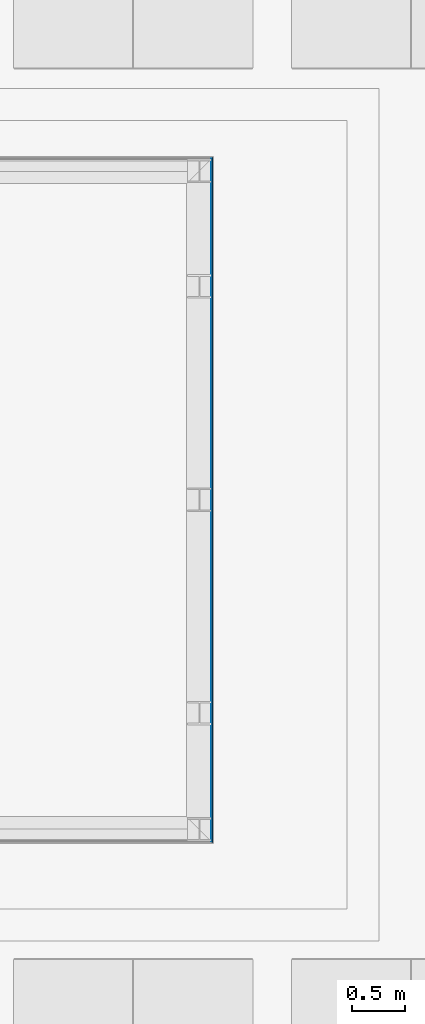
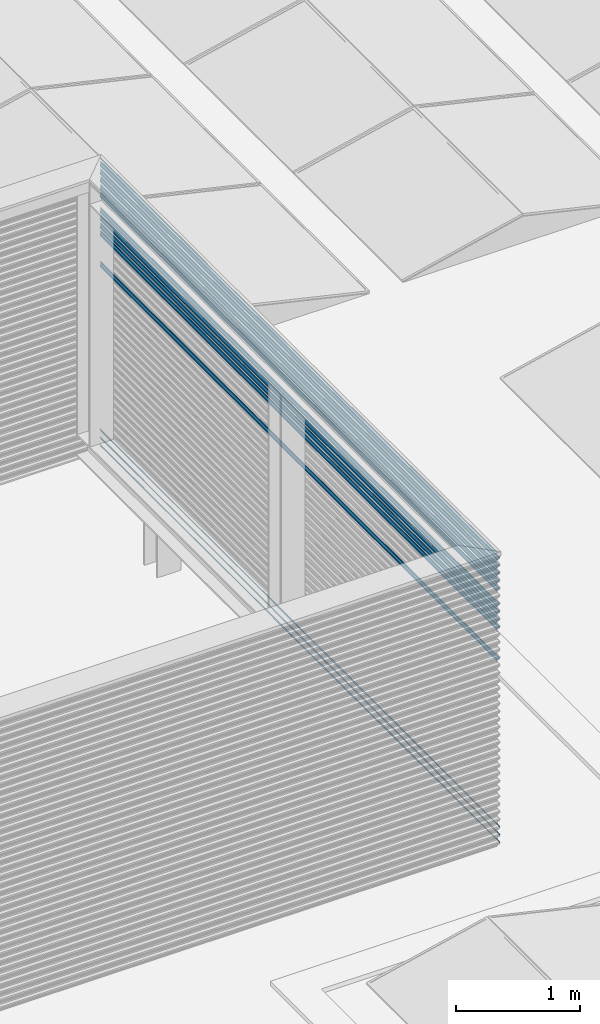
# One storey, part 39 of 63: 14 building element parts, 1 element without a shape of its own.
"""IFC2X3 building model written with IfcOpenShell, lengths in millimetres."""

from ifc_helpers import new_model, entity, si_unit, converted_unit, derived_unit, money_unit, direction, frame, origin_with_axes, place, context, subcontext, project, spatial, faceted_brep, material, type_object, element, aggregate, save


model = new_model("IFC2X3")

# Units and contexts
model_context = context("Model", 3, precision=0.01, world=origin_with_axes(), true_north=direction((0.0, 1.0)))
body_context = subcontext(model_context, "Body", "Model", "MODEL_VIEW")
ifc_project = project(units=[si_unit("LENGTHUNIT", "METRE", prefix="MILLI"), si_unit("AREAUNIT", "SQUARE_METRE"), si_unit("VOLUMEUNIT", "CUBIC_METRE"), converted_unit("PLANEANGLEUNIT", "DEGREE", entity("IfcPlaneAngleMeasure", 0.0174532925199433), si_unit("PLANEANGLEUNIT", "RADIAN"), dimensions=[0, 0, 0, 0, 0, 0, 0]), money_unit("EUR"), converted_unit("TIMEUNIT", "Year", entity("IfcTimeMeasure", 31557600.0), si_unit("TIMEUNIT", "SECOND"), dimensions=[0, 0, 1, 0, 0, 0, 0]), si_unit("MASSUNIT", "GRAM", prefix="KILO"), si_unit("THERMODYNAMICTEMPERATUREUNIT", "DEGREE_CELSIUS"), si_unit("LUMINOUSINTENSITYUNIT", "LUMEN"), si_unit("ENERGYUNIT", "JOULE", prefix="MEGA"), derived_unit("THERMALCONDUCTANCEUNIT", [(si_unit("POWERUNIT", "WATT"), 1), (si_unit("LENGTHUNIT", "METRE"), -1), (si_unit("THERMODYNAMICTEMPERATUREUNIT", "KELVIN"), -1)]), derived_unit("SPECIFICHEATCAPACITYUNIT", [(si_unit("ENERGYUNIT", "JOULE"), 1), (si_unit("MASSUNIT", "GRAM", prefix="KILO"), -1), (si_unit("THERMODYNAMICTEMPERATUREUNIT", "KELVIN"), -1)]), derived_unit("MASSDENSITYUNIT", [(si_unit("MASSUNIT", "GRAM", prefix="KILO"), 1), (si_unit("VOLUMEUNIT", "CUBIC_METRE"), -1)])], contexts=[model_context])

# Site, building, storey
site_placement = place(None, origin_with_axes())
site = spatial("IfcSite", under=ifc_project, at=site_placement, Name="<site naam>", CompositionType="ELEMENT")
building_placement = place(site_placement, origin_with_axes())
building = spatial("IfcBuilding", under=site, at=building_placement, Name="<Naam gebouw>", CompositionType="ELEMENT")
storey_placement = place(building_placement, frame((0.0, 0.0, 12770.0), z_axis=(0.0, 0.0, 1.0), x_axis=(1.0, 0.0, 0.0)))
storey = spatial("IfcBuildingStorey", under=building, at=storey_placement, Name="04 4e verdieping", CompositionType="ELEMENT", Elevation=12770.0)

# Wall, building element parts
wall_type = type_object("IfcWallType", Name="Gevelbeplating golf 18 x 2900", PredefinedType="NOTDEFINED")
wall_placement = place(storey_placement, frame((58128.00007858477, 6781.999921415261, 299.9552842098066), z_axis=(0.0, 0.0, 1.0), x_axis=(0.0, 1.0, 0.0)))
wall = element("IfcWall", 1, at=wall_placement, inside=storey, type_object=wall_type, Name="47_Binnenwand_Gevelbeplating")
ifc_material = material(Name="gevelafwerking type 3 - Aluminium RAL1036")
building_element_part_1_placement = place(wall_placement, origin_with_axes())
building_element_part_1 = element("IfcBuildingElementPart", 2, at=building_element_part_1_placement, material=ifc_material, Name="gevelafwerking type 3 - Aluminium RAL1036", context=body_context, shape_type="Brep", body=[
    faceted_brep([(0.9999476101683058, 0.9999476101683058, 1862.0), (0.9999476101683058, -5.238983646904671e-05, 1862.0), (6436.000223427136, -5.238983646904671e-05, 1862.000008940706), (6436.000223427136, 0.9999476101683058, 1862.000008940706), (3.116426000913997, 2.188175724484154, 1851.887674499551), (3.116426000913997, 3.116426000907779, 1851.887674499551), (3.340077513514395, 2.257306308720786, 1851.568205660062), (6433.742884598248, 2.257306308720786, 1851.568205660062), (6433.742884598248, 3.340077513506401, 1851.568205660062), (6433.812014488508, 3.116426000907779, 1851.887674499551), (9.04153128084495, 9.041531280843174, 1843.424121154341), (9.04153128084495, 8.209492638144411, 1843.424121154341), (9.398076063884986, 8.55520022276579, 1842.951106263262), (6427.445005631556, 8.55520022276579, 1842.951106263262), (6427.445005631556, 9.398076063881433, 1842.951106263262), (6427.790712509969, 9.041531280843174, 1843.424121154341), (15.62921048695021, 15.62921048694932, 1834.684488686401), (15.62921048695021, 14.54417666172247, 1834.684488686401), (15.69994912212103, 14.77514470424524, 1834.365682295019), (6421.225040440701, 14.77514470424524, 1834.365682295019), (6421.225040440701, 15.6999491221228, 1834.365682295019), (6421.45600919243, 15.62921048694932, 1834.684488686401), (17.99994761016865, 17.99994761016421, 1824.0), (17.99994761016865, 16.99994522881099, 1824.0), (6419.000241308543, 16.99994522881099, 1823.999995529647), (6419.000241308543, 17.99994761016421, 1823.999995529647)], [[[0, 1, 2, 3]], [[4, 1, 0, 5]], [[4, 6, 7, 2, 1]], [[3, 2, 7, 8, 9]], [[5, 0, 3, 9]], [[6, 4, 5, 10, 11]], [[11, 12, 13, 7, 6]], [[8, 7, 13, 14, 15]], [[10, 5, 9, 8, 15]], [[12, 11, 10, 16, 17]], [[17, 18, 19, 13, 12]], [[14, 13, 19, 20, 21]], [[16, 10, 15, 14, 21]], [[18, 17, 16, 22, 23]], [[18, 23, 24, 19]], [[20, 19, 24, 25]], [[22, 16, 21, 20, 25]], [[23, 22, 25, 24]]]),
])
building_element_part_2_placement = place(wall_placement, origin_with_axes())
building_element_part_2 = element("IfcBuildingElementPart", 3, at=building_element_part_2_placement, material=ifc_material, Name="gevelafwerking type 3 - Aluminium RAL1036", context=body_context, shape_type="Brep", body=[
    faceted_brep([(0.9999380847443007, 0.9999380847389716, 2241.999999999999), (0.9999380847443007, -6.19152586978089e-05, 2241.999999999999), (6436.000261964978, -6.19152586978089e-05, 2242.000013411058), (6436.000261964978, 0.9999380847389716, 2242.000013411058), (3.116416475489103, 2.188167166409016, 2231.887674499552), (3.116416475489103, 3.116416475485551, 2231.887674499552), (3.340064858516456, 2.257296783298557, 2231.568210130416), (6433.742879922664, 2.257296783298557, 2231.568210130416), (6433.742879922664, 3.340064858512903, 2231.568210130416), (6433.812001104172, 3.116416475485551, 2231.887674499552), (9.041521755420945, 8.209486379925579, 2223.424121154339), (9.041521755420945, 9.041521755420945, 2223.424121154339), (9.398063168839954, 8.555190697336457, 2222.951110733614), (6427.445005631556, 8.555190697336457, 2222.951110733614), (6427.79070456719, 9.041521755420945, 2223.424121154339), (6427.445005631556, 9.398063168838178, 2222.951110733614), (15.6292009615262, 15.62920096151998, 2214.6844886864), (15.6292009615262, 14.54417037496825, 2214.6844886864), (15.69993860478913, 14.77513517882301, 2214.365686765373), (6421.225040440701, 14.77513517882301, 2214.365686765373), (6421.456005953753, 15.62920096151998, 2214.6844886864), (6421.225040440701, 15.69993860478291, 2214.365686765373), (17.99993808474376, 17.99993808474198, 2203.999999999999), (17.99993808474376, 16.99993570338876, 2203.999999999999), (6419.000241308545, 16.99993570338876, 2203.999999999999), (6419.000241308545, 17.99993808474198, 2203.999999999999)], [[[0, 1, 2, 3]], [[4, 1, 0, 5]], [[4, 6, 7, 2, 1]], [[8, 9, 3, 2, 7]], [[5, 0, 3, 9]], [[10, 6, 4, 5, 11]], [[10, 12, 13, 7, 6]], [[11, 5, 9, 8, 14]], [[15, 14, 8, 7, 13]], [[12, 10, 11, 16, 17]], [[17, 18, 19, 13, 12]], [[16, 11, 14, 15, 20]], [[21, 20, 15, 13, 19]], [[18, 17, 16, 22, 23]], [[18, 23, 24, 19]], [[22, 16, 20, 21, 25]], [[24, 25, 21, 19]], [[23, 22, 25, 24]]]),
])
building_element_part_3_placement = place(wall_placement, origin_with_axes())
building_element_part_3 = element("IfcBuildingElementPart", 4, at=building_element_part_3_placement, material=ifc_material, Name="gevelafwerking type 3 - Aluminium RAL1036", context=body_context, shape_type="Brep", body=[
    faceted_brep([(0.9999333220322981, 0.9999333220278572, 2394.0), (0.9999333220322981, -6.667796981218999e-05, 2394.0), (6436.000266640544, -6.667796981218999e-05, 2393.999980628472), (6436.000266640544, 0.9999333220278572, 2393.999980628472), (3.116411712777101, 2.188164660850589, 2383.887674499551), (3.116411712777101, 3.116411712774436, 2383.887674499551), (3.340052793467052, 2.257292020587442, 2383.568220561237), (6433.742884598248, 2.257292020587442, 2383.568220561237), (6433.742884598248, 3.340052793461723, 2383.568220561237), (6433.81201287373, 3.116411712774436, 2383.887674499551), (9.041516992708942, 9.04151699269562, 2375.42412115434), (9.041516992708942, 8.20948924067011, 2375.42412115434), (9.398050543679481, 8.555185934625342, 2374.951121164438), (6427.445005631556, 8.555185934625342, 2374.951121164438), (6427.445005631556, 9.398050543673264, 2374.951121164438), (6427.79070161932, 9.041516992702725, 2375.42412115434), (15.62919619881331, 15.62919619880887, 2366.684488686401), (15.62919619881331, 14.54417316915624, 2366.684488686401), (15.69993152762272, 14.77513041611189, 2366.365697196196), (6421.225040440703, 14.77513041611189, 2366.365697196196), (6421.225040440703, 15.69993152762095, 2366.365697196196), (6421.455998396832, 15.62919619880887, 2366.684488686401), (17.99993332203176, 17.99993332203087, 2356.0), (17.99993332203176, 16.99993094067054, 2356.0), (6419.000241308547, 16.99993094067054, 2356.000010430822), (6419.000241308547, 17.99993332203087, 2356.000010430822)], [[[0, 1, 2, 3]], [[4, 1, 0, 5]], [[4, 6, 7, 2, 1]], [[3, 2, 7, 8, 9]], [[5, 0, 3, 9]], [[6, 4, 5, 10, 11]], [[11, 12, 13, 7, 6]], [[8, 7, 13, 14, 15]], [[10, 5, 9, 8, 15]], [[12, 11, 10, 16, 17]], [[17, 18, 19, 13, 12]], [[14, 13, 19, 20, 21]], [[16, 10, 15, 14, 21]], [[18, 17, 16, 22, 23]], [[18, 23, 24, 19]], [[20, 19, 24, 25]], [[22, 16, 21, 20, 25]], [[23, 22, 25, 24]]]),
])
building_element_part_4_placement = place(wall_placement, origin_with_axes())
building_element_part_4 = element("IfcBuildingElementPart", 5, at=building_element_part_4_placement, material=ifc_material, Name="gevelafwerking type 3 - Aluminium RAL1036", context=body_context, shape_type="Brep", body=[
    faceted_brep([(0.9999357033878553, 0.999935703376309, 2318.0), (0.9999357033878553, -6.429661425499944e-05, 2318.0), (6436.000266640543, -6.429661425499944e-05, 2317.999997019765), (6436.000266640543, 0.9999357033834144, 2317.999997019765), (3.116414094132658, 2.188161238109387, 2307.887674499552), (3.116414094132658, 3.116414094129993, 2307.887674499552), (3.340073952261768, 2.257294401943, 2307.568193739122), (6433.742879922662, 2.257294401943, 2307.568193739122), (6433.742879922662, 3.340073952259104, 2307.568193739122), (6433.812009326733, 3.116414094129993, 2307.887674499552), (9.0415193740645, 8.209472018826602, 2299.42412115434), (9.0415193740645, 9.041519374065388, 2299.42412115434), (9.398073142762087, 8.5551883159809, 2298.951094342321), (6427.445005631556, 8.5551883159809, 2298.951094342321), (6427.790716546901, 9.041519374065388, 2299.42412115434), (6427.445005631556, 9.398073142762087, 2298.951094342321), (15.62919858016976, 15.62919858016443, 2290.684488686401), (15.62919858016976, 14.54415611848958, 2290.684488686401), (15.69993986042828, 14.77513279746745, 2290.365670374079), (6421.225040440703, 14.77513279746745, 2290.365670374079), (6421.456017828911, 15.62919858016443, 2290.684488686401), (6421.225040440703, 15.69993986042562, 2290.365670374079), (17.9999357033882, 17.99993570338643, 2280.0), (17.9999357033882, 16.9999333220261, 2280.0), (6419.000241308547, 16.9999333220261, 2279.999983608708), (6419.000241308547, 17.99993570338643, 2279.999983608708)], [[[0, 1, 2, 3]], [[4, 1, 0, 5]], [[4, 6, 7, 2, 1]], [[8, 9, 3, 2, 7]], [[5, 0, 3, 9]], [[10, 6, 4, 5, 11]], [[10, 12, 13, 7, 6]], [[11, 5, 9, 8, 14]], [[15, 14, 8, 7, 13]], [[12, 10, 11, 16, 17]], [[17, 18, 19, 13, 12]], [[16, 11, 14, 15, 20]], [[21, 20, 15, 13, 19]], [[18, 17, 16, 22, 23]], [[18, 23, 24, 19]], [[22, 16, 20, 21, 25]], [[24, 25, 21, 19]], [[23, 22, 25, 24]]]),
])
building_element_part_5_placement = place(wall_placement, origin_with_axes())
building_element_part_5 = element("IfcBuildingElementPart", 6, at=building_element_part_5_placement, material=ifc_material, Name="gevelafwerking type 3 - Aluminium RAL1036", context=body_context, shape_type="Brep", body=[
    faceted_brep([(0.9999285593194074, 0.9999285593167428, 2546.0), (0.9999285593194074, -7.144068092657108e-05, 2546.0), (6436.000266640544, -7.144068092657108e-05, 2545.999991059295), (6436.000266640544, 0.9999285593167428, 2545.999991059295), (3.116406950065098, 2.188162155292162, 2535.88767449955), (3.116406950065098, 3.116406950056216, 2535.88767449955), (3.340040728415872, 2.257287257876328, 2535.568230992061), (6433.742884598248, 2.257287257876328, 2535.568230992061), (6433.742884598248, 3.340040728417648, 2535.568230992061), (6433.812010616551, 3.116406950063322, 2535.88767449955), (9.041512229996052, 8.209460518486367, 2527.42412115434), (9.041512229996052, 9.04151222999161, 2527.42412115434), (9.398070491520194, 8.555181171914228, 2526.951088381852), (6427.445005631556, 8.555181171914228, 2526.951088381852), (6427.790723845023, 9.04151222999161, 2527.42412115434), (6427.445005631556, 9.398070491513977, 2526.951088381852), (15.62919143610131, 15.62919143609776, 2518.6844886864), (15.62919143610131, 14.54414465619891, 2518.6844886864), (15.69993403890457, 14.77512565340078, 2518.365664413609), (6421.225079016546, 14.77512565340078, 2518.365664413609), (6421.456063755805, 15.62919143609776, 2518.6844886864), (6421.225079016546, 15.69993403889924, 2518.365664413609), (17.99992855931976, 17.99992855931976, 2507.999999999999), (17.99992855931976, 16.99992617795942, 2507.999999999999), (6419.000241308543, 16.99992617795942, 2508.000020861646), (6419.000241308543, 17.99992855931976, 2508.000020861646)], [[[0, 1, 2, 3]], [[4, 1, 0, 5]], [[4, 6, 7, 2, 1]], [[8, 9, 3, 2, 7]], [[5, 0, 3, 9]], [[10, 6, 4, 5, 11]], [[10, 12, 13, 7, 6]], [[11, 5, 9, 8, 14]], [[15, 14, 8, 7, 13]], [[12, 10, 11, 16, 17]], [[17, 18, 19, 13, 12]], [[16, 11, 14, 15, 20]], [[21, 20, 15, 13, 19]], [[18, 17, 16, 22, 23]], [[18, 23, 24, 19]], [[22, 16, 20, 21, 25]], [[24, 25, 21, 19]], [[23, 22, 25, 24]]]),
])
building_element_part_6_placement = place(wall_placement, origin_with_axes())
building_element_part_6 = element("IfcBuildingElementPart", 7, at=building_element_part_6_placement, material=ifc_material, Name="gevelafwerking type 3 - Aluminium RAL1036", context=body_context, shape_type="Brep", body=[
    faceted_brep([(0.9999261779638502, 0.9999261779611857, 2622.0), (0.9999261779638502, -7.382203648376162e-05, 2622.0), (6436.000261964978, -7.382203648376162e-05, 2622.00001788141), (6436.000261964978, 0.9999261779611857, 2622.00001788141), (3.116404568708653, 2.188156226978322, 2611.887674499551), (3.116404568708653, 3.116404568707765, 2611.887674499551), (3.34004982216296, 2.257284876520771, 2611.568214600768), (6433.742879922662, 2.257284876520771, 2611.568214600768), (6433.742879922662, 3.340049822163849, 2611.568214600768), (6433.81200013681, 3.116404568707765, 2611.887674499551), (9.041509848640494, 8.209477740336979, 2603.424121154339), (9.041509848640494, 9.041509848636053, 2603.424121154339), (9.398047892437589, 8.55517879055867, 2602.951115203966), (6427.445005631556, 8.55517879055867, 2602.951115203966), (6427.790701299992, 9.041509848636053, 2603.424121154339), (6427.445005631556, 9.39804789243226, 2602.951115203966), (15.62918905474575, 15.6291890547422, 2594.684488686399), (15.62918905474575, 14.54416170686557, 2594.684488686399), (15.69992570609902, 14.77512327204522, 2594.365691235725), (6421.225083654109, 14.77512327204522, 2594.365691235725), (6421.456044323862, 15.6291890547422, 2594.684488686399), (6421.225083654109, 15.69992570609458, 2594.365691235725), (17.99992617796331, 17.9999261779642, 2584.0), (17.99992617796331, 16.99992379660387, 2584.0), (6419.000284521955, 16.99992379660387, 2584.000004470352), (6419.000284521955, 17.9999261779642, 2584.000004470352)], [[[0, 1, 2, 3]], [[4, 1, 0, 5]], [[4, 6, 7, 2, 1]], [[8, 9, 3, 2, 7]], [[5, 0, 3, 9]], [[10, 6, 4, 5, 11]], [[10, 12, 13, 7, 6]], [[11, 5, 9, 8, 14]], [[15, 14, 8, 7, 13]], [[12, 10, 11, 16, 17]], [[17, 18, 19, 13, 12]], [[16, 11, 14, 15, 20]], [[21, 20, 15, 13, 19]], [[18, 17, 16, 22, 23]], [[18, 23, 24, 19]], [[22, 16, 20, 21, 25]], [[24, 25, 21, 19]], [[23, 22, 25, 24]]]),
])
building_element_part_7_placement = place(wall_placement, origin_with_axes())
building_element_part_7 = element("IfcBuildingElementPart", 8, at=building_element_part_7_placement, material=ifc_material, Name="gevelafwerking type 3 - Aluminium RAL1036", context=body_context, shape_type="Brep", body=[
    faceted_brep([(0.9999404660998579, 0.9999404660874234, 2165.999999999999), (0.9999404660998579, -5.953390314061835e-05, 2165.999999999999), (6436.000266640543, -5.953390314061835e-05, 2165.999986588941), (6436.000266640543, 0.9999404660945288, 2165.999986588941), (3.116418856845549, 2.188173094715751, 2155.887674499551), (3.116418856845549, 3.116418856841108, 2155.887674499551), (3.340055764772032, 2.257299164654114, 2155.568226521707), (6433.742884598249, 2.257299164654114, 2155.568226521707), (6433.742884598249, 3.340055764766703, 2155.568226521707), (6433.812011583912, 3.116418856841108, 2155.887674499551), (9.04152413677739, 9.041524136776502, 2147.424121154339), (9.04152413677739, 8.20950074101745, 2147.424121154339), (9.39805319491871, 8.555193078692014, 2146.951127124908), (6427.445005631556, 8.555193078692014, 2146.951127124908), (6427.445005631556, 9.398053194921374, 2146.951127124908), (6427.790697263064, 9.041524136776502, 2147.424121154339), (15.62920334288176, 15.62920334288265, 2138.684488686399), (15.62920334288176, 14.54418463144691, 2138.684488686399), (15.69993734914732, 14.77513756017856, 2138.365703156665), (6421.225040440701, 14.77513756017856, 2138.365703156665), (6421.225040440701, 15.69993734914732, 2138.365703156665), (6421.455994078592, 15.62920334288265, 2138.684488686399), (17.99994046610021, 17.99994046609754, 2127.999999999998), (17.99994046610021, 16.99993808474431, 2127.999999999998), (6419.000241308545, 16.99993808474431, 2128.000016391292), (6419.000241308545, 17.99994046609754, 2128.000016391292)], [[[0, 1, 2, 3]], [[4, 1, 0, 5]], [[4, 6, 7, 2, 1]], [[3, 2, 7, 8, 9]], [[5, 0, 3, 9]], [[6, 4, 5, 10, 11]], [[11, 12, 13, 7, 6]], [[8, 7, 13, 14, 15]], [[10, 5, 9, 8, 15]], [[12, 11, 10, 16, 17]], [[17, 18, 19, 13, 12]], [[14, 13, 19, 20, 21]], [[16, 10, 15, 14, 21]], [[18, 17, 16, 22, 23]], [[18, 23, 24, 19]], [[20, 19, 24, 25]], [[22, 16, 21, 20, 25]], [[23, 22, 25, 24]]]),
])
building_element_part_8_placement = place(wall_placement, origin_with_axes())
building_element_part_8 = element("IfcBuildingElementPart", 9, at=building_element_part_8_placement, material=ifc_material, Name="gevelafwerking type 3 - Aluminium RAL1036", context=body_context, shape_type="Brep", body=[
    faceted_brep([(0.9999237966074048, 0.9999237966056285, 2773.999999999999), (0.9999237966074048, -7.620339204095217e-05, 2773.999999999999), (6436.000266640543, -7.620339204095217e-05, 2773.999985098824), (6436.000266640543, 0.9999237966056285, 2773.999985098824), (3.116402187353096, 2.188156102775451, 2763.887674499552), (3.116402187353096, 3.116402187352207, 2763.887674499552), (3.340040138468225, 2.257282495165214, 2763.568225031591), (6433.742884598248, 2.257282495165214, 2763.568225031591), (6433.742884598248, 3.340040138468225, 2763.568225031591), (6433.812011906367, 3.116402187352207, 2763.887674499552), (9.041507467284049, 9.041507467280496, 2755.424121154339), (9.041507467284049, 8.209482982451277, 2755.424121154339), (9.398037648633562, 8.555176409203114, 2754.95112563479), (6427.445005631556, 8.555176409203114, 2754.95112563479), (6427.445005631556, 9.398037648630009, 2754.95112563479), (6427.790698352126, 9.041507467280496, 2755.424121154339), (15.62918667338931, 15.62918667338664, 2746.6844886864), (15.62918667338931, 14.54416688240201, 2746.6844886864), (15.69992101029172, 14.77512089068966, 2746.365701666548), (6421.225083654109, 14.77512089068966, 2746.365701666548), (6421.225083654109, 15.69992101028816, 2746.365701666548), (6421.456036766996, 15.62918667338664, 2746.6844886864), (17.99992379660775, 17.99992379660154, 2735.999999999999), (17.99992379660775, 16.99992141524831, 2735.999999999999), (6419.000284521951, 16.99992141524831, 2736.000014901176), (6419.000284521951, 17.99992379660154, 2736.000014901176)], [[[0, 1, 2, 3]], [[4, 1, 0, 5]], [[4, 6, 7, 2, 1]], [[3, 2, 7, 8, 9]], [[5, 0, 3, 9]], [[6, 4, 5, 10, 11]], [[11, 12, 13, 7, 6]], [[8, 7, 13, 14, 15]], [[10, 5, 9, 8, 15]], [[12, 11, 10, 16, 17]], [[17, 18, 19, 13, 12]], [[14, 13, 19, 20, 21]], [[16, 10, 15, 14, 21]], [[18, 17, 16, 22, 23]], [[18, 23, 24, 19]], [[20, 19, 24, 25]], [[22, 16, 21, 20, 25]], [[23, 22, 25, 24]]]),
])
building_element_part_9_placement = place(wall_placement, origin_with_axes())
building_element_part_9 = element("IfcBuildingElementPart", 10, at=building_element_part_9_placement, material=ifc_material, Name="gevelafwerking type 3 - Aluminium RAL1036", context=body_context, shape_type="Brep", body=[
    faceted_brep([(0.9999261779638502, 0.9999261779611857, 2697.999999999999), (0.9999261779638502, -7.382203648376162e-05, 2697.999999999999), (6436.000266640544, -7.382203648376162e-05, 2698.000001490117), (6436.000266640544, 0.9999261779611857, 2698.000001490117), (3.116404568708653, 2.18815268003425, 2687.887674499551), (3.116404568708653, 3.116404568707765, 2687.887674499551), (3.34006129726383, 2.257284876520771, 2687.568198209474), (6433.742879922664, 2.257284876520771, 2687.568198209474), (6433.742879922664, 3.340061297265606, 2687.568198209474), (6433.812008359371, 3.116404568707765, 2687.887674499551), (9.041509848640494, 8.209465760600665, 2679.424121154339), (9.041509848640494, 9.041509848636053, 2679.424121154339), (9.398060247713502, 8.55517879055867, 2678.951098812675), (6427.445005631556, 8.55517879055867, 2678.951098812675), (6427.790713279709, 9.041509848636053, 2679.424121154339), (6427.445005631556, 9.398060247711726, 2678.951098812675), (15.62918905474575, 15.6291890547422, 2670.6844886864), (15.62918905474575, 14.54414983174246, 2670.6844886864), (15.69992934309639, 14.77512327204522, 2670.365674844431), (6421.225083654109, 14.77512327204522, 2670.365674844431), (6421.456056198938, 15.6291890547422, 2670.6844886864), (6421.225083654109, 15.69992934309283, 2670.365674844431), (17.99992617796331, 17.9999261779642, 2659.999999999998), (17.99992617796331, 16.99992379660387, 2659.999999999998), (6419.000284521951, 16.99992379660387, 2659.99998807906), (6419.000284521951, 17.9999261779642, 2659.99998807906)], [[[0, 1, 2, 3]], [[4, 1, 0, 5]], [[4, 6, 7, 2, 1]], [[8, 9, 3, 2, 7]], [[5, 0, 3, 9]], [[10, 6, 4, 5, 11]], [[10, 12, 13, 7, 6]], [[11, 5, 9, 8, 14]], [[15, 14, 8, 7, 13]], [[12, 10, 11, 16, 17]], [[17, 18, 19, 13, 12]], [[16, 11, 14, 15, 20]], [[21, 20, 15, 13, 19]], [[18, 17, 16, 22, 23]], [[18, 23, 24, 19]], [[22, 16, 20, 21, 25]], [[24, 25, 21, 19]], [[23, 22, 25, 24]]]),
])
building_element_part_10_placement = place(wall_placement, origin_with_axes())
building_element_part_10 = element("IfcBuildingElementPart", 11, at=building_element_part_10_placement, material=ifc_material, Name="gevelafwerking type 3 - Aluminium RAL1036", context=body_context, shape_type="Brep", body=[
    faceted_brep([(0.9999214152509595, 0.9999214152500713, 2850.0), (0.9999214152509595, -7.858475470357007e-05, 2850.0), (6436.000266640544, -7.858475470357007e-05, 2850.00001192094), (6436.000266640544, 0.9999214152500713, 2850.00001192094), (3.11639980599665, 2.188150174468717, 2839.88767449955), (3.11639980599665, 3.11639980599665, 2839.88767449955), (3.340049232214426, 2.257280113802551, 2839.568208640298), (6433.742927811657, 2.257280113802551, 2839.568208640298), (6433.742927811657, 3.340049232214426, 2839.568208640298), (6433.812057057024, 3.11639980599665, 2839.88767449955), (9.041505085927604, 9.041505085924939, 2831.42412115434), (9.041505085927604, 8.209468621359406, 2831.42412115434), (9.398047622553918, 8.555174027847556, 2830.951109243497), (6427.445005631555, 8.555174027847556, 2830.951109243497), (6427.445005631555, 9.398047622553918, 2830.951109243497), (6427.790712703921, 9.041505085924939, 2831.42412115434), (15.62918429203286, 15.62918429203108, 2822.684488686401), (15.62918429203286, 14.54415262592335, 2822.684488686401), (15.69992226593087, 14.77511850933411, 2822.365685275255), (6421.225083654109, 14.77511850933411, 2822.365685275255), (6421.225083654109, 15.69992226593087, 2822.365685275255), (6421.456048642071, 15.62918429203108, 2822.684488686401), (17.99992141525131, 17.99992141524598, 2812.0), (17.99992141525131, 16.99991903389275, 2812.0), (6419.000284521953, 16.99991903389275, 2811.999998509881), (6419.000284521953, 17.99992141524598, 2811.999998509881)], [[[0, 1, 2, 3]], [[4, 1, 0, 5]], [[4, 6, 7, 2, 1]], [[3, 2, 7, 8, 9]], [[5, 0, 3, 9]], [[6, 4, 5, 10, 11]], [[11, 12, 13, 7, 6]], [[8, 7, 13, 14, 15]], [[10, 5, 9, 8, 15]], [[12, 11, 10, 16, 17]], [[17, 18, 19, 13, 12]], [[14, 13, 19, 20, 21]], [[16, 10, 15, 14, 21]], [[18, 17, 16, 22, 23]], [[18, 23, 24, 19]], [[20, 19, 24, 25]], [[22, 16, 21, 20, 25]], [[23, 22, 25, 24]]]),
])
building_element_part_11_placement = place(wall_placement, origin_with_axes())
building_element_part_11 = element("IfcBuildingElementPart", 12, at=building_element_part_11_placement, material=ifc_material, Name="gevelafwerking type 3 - Aluminium RAL1036", context=body_context, shape_type="Brep", body=[
    faceted_brep([(3.340115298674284, 2.257358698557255, 48.43177347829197), (3.116478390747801, 2.188226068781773, 48.11232550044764), (1.000000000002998, 0.0, 38.00000000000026), (6436.000180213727, 0.0, 38.00001341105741), (6433.742841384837, 2.257358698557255, 48.43177347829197), (9.041583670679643, 8.209558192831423, 56.57587884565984), (9.041583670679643, 9.041583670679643, 56.57587884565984), (3.116478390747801, 3.116478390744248, 48.11232550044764), (1.000000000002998, 0.9999999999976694, 38.00000000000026), (6436.000180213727, 0.9999999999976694, 38.00001341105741), (6433.742841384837, 3.340115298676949, 48.43177347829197), (6433.811967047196, 3.116478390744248, 48.11232550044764), (6427.444919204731, 8.555252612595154, 57.04887287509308), (9.398112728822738, 8.555252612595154, 57.04887287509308), (15.6292628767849, 14.54424577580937, 65.31551131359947), (15.6292628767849, 15.62926287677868, 65.31551131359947), (6427.790613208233, 9.041583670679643, 56.57587884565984), (6427.444919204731, 9.39811272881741, 57.04887287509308), (6421.224997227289, 14.7751970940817, 65.634296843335), (15.69999688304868, 14.7751970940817, 65.634296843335), (18.00000000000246, 16.99999761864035, 76.00000000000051), (18.00000000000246, 18.00000000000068, 76.00000000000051), (6421.45594926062, 15.62926287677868, 65.31551131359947), (6421.224997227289, 15.69999688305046, 65.634296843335), (6419.000198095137, 16.99999761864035, 75.99998360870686), (6419.000198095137, 18.00000000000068, 75.99998360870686)], [[[0, 1, 2, 3, 4]], [[1, 0, 5, 6, 7]], [[8, 2, 1, 7]], [[2, 8, 9, 3]], [[10, 4, 3, 9, 11]], [[5, 0, 4, 12, 13]], [[5, 13, 14, 15, 6]], [[7, 6, 16, 10, 11]], [[8, 7, 11, 9]], [[17, 12, 4, 10, 16]], [[14, 13, 12, 18, 19]], [[14, 19, 20, 21, 15]], [[6, 15, 22, 17, 16]], [[23, 18, 12, 17, 22]], [[20, 19, 18, 24]], [[21, 20, 24, 25]], [[15, 21, 25, 23, 22]], [[25, 24, 18, 23]]]),
])
building_element_part_12_placement = place(wall_placement, origin_with_axes())
building_element_part_12 = element("IfcBuildingElementPart", 13, at=building_element_part_12_placement, material=ifc_material, Name="gevelafwerking type 3 - Aluminium RAL1036", context=body_context, shape_type="Brep", body=[
    faceted_brep([(6422.023797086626, 14.97643081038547, 2900.0), (14.97643081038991, 14.97643081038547, 2900.0), (14.97643081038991, 13.97637062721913, 2900.0), (6422.023797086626, 13.97637062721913, 2900.0), (6419.000284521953, 17.99992141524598, 2887.99998211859), (17.99992141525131, 17.99992141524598, 2888.0), (17.99992141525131, 16.99991903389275, 2888.0), (6419.000284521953, 16.99991903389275, 2887.99998211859)], [[[0, 1, 2, 3]], [[4, 5, 1, 0]], [[5, 6, 2, 1]], [[3, 2, 6, 7]], [[7, 4, 0, 3]], [[7, 6, 5, 4]]]),
])
building_element_part_13_placement = place(wall_placement, origin_with_axes())
building_element_part_13 = element("IfcBuildingElementPart", 14, at=building_element_part_13_placement, material=ifc_material, Name="gevelafwerking type 3 - Aluminium RAL1036", context=body_context, shape_type="Brep", body=[
    faceted_brep([(3.34013169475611, 2.257356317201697, 124.4318003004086), (3.116476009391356, 2.188227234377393, 124.1123255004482), (0.9999976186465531, -2.381355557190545e-06, 114.0000000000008), (6436.000180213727, -2.381355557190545e-06, 113.9999970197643), (6433.742836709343, 2.257356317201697, 124.4318003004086), (9.041581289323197, 8.209536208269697, 132.5758788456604), (9.041581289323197, 9.041581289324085, 132.5758788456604), (3.116476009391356, 3.116476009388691, 124.1123255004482), (0.9999976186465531, 0.9999976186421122, 114.0000000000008), (6436.000180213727, 0.9999976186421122, 113.9999970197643), (6433.742836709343, 3.34013169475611, 124.4318003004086), (6433.811963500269, 3.116476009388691, 124.1123255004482), (6427.444919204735, 8.555250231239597, 133.0488996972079), (9.398130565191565, 8.555250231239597, 133.0488996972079), (15.62926049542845, 14.54422396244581, 141.3155113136), (15.62926049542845, 15.62926049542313, 141.3155113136), (6427.790628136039, 9.041581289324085, 132.5758788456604), (6427.444919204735, 9.398130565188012, 133.0488996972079), (6421.224997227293, 14.77519471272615, 141.6343236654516), (15.70000045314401, 14.77519471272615, 141.6343236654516), (17.9999976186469, 16.99999523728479, 151.9999999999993), (17.9999976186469, 17.99999761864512, 151.9999999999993), (6421.455968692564, 15.62926049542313, 141.3155113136), (6421.224997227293, 15.70000045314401, 141.6343236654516), (6419.000198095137, 16.99999523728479, 152.0000104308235), (6419.000198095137, 17.99999761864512, 152.0000104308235)], [[[0, 1, 2, 3, 4]], [[1, 0, 5, 6, 7]], [[8, 2, 1, 7]], [[2, 8, 9, 3]], [[10, 4, 3, 9, 11]], [[5, 0, 4, 12, 13]], [[5, 13, 14, 15, 6]], [[7, 6, 16, 10, 11]], [[8, 7, 11, 9]], [[17, 12, 4, 10, 16]], [[14, 13, 12, 18, 19]], [[14, 19, 20, 21, 15]], [[6, 15, 22, 17, 16]], [[23, 18, 12, 17, 22]], [[20, 19, 18, 24]], [[21, 20, 24, 25]], [[15, 21, 25, 23, 22]], [[25, 24, 18, 23]]]),
])
building_element_part_14_placement = place(wall_placement, origin_with_axes())
building_element_part_14 = element("IfcBuildingElementPart", 15, at=building_element_part_14_placement, material=ifc_material, Name="gevelafwerking type 3 - Aluminium RAL1036", context=body_context, shape_type="Brep", body=[
    faceted_brep([(3.340117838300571, 2.25735393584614, 200.4317839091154), (3.116473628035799, 2.188228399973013, 200.1123255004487), (0.9999952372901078, -4.762711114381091e-06, 189.9999999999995), (6436.000175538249, -4.762711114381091e-06, 189.9999806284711), (6433.742836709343, 2.25735393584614, 200.4317839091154), (9.04157890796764, 8.209545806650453, 208.5758788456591), (9.04157890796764, 9.041578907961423, 208.5758788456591), (3.116473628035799, 3.116473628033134, 200.1123255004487), (0.9999952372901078, 0.999995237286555, 189.9999999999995), (6436.000175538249, 0.999995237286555, 189.9999806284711), (6433.742836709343, 3.34011783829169, 200.4317839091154), (6433.811955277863, 3.116473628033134, 200.1123255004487), (6427.444919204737, 8.55524784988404, 209.0488833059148), (9.39811582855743, 8.55524784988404, 209.0488833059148), (15.62925811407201, 14.54423345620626, 217.3155113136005), (15.62925811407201, 15.62925811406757, 217.3155113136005), (6427.790616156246, 9.041578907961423, 208.5758788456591), (6427.444919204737, 9.398115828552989, 209.0488833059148), (6421.224997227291, 14.77519233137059, 217.6343072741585), (15.6999944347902, 14.77519233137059, 217.6343072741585), (17.99999523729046, 16.99999285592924, 227.9999999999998), (17.99999523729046, 17.99999523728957, 227.9999999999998), (6421.455956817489, 15.62925811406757, 217.3155113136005), (6421.224997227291, 15.6999944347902, 217.6343072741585), (6419.000198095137, 16.99999285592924, 227.9999940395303), (6419.000198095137, 17.99999523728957, 227.9999940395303)], [[[0, 1, 2, 3, 4]], [[1, 0, 5, 6, 7]], [[8, 2, 1, 7]], [[2, 8, 9, 3]], [[10, 4, 3, 9, 11]], [[5, 0, 4, 12, 13]], [[5, 13, 14, 15, 6]], [[7, 6, 16, 10, 11]], [[8, 7, 11, 9]], [[17, 12, 4, 10, 16]], [[14, 13, 12, 18, 19]], [[14, 19, 20, 21, 15]], [[6, 15, 22, 17, 16]], [[23, 18, 12, 17, 22]], [[20, 19, 18, 24]], [[21, 20, 24, 25]], [[15, 21, 25, 23, 22]], [[25, 24, 18, 23]]]),
])
aggregate(wall, [building_element_part_1, building_element_part_2, building_element_part_3, building_element_part_4, building_element_part_5, building_element_part_6, building_element_part_7, building_element_part_8, building_element_part_9, building_element_part_10, building_element_part_11, building_element_part_12, building_element_part_13, building_element_part_14])

save(model, "model.ifc")
